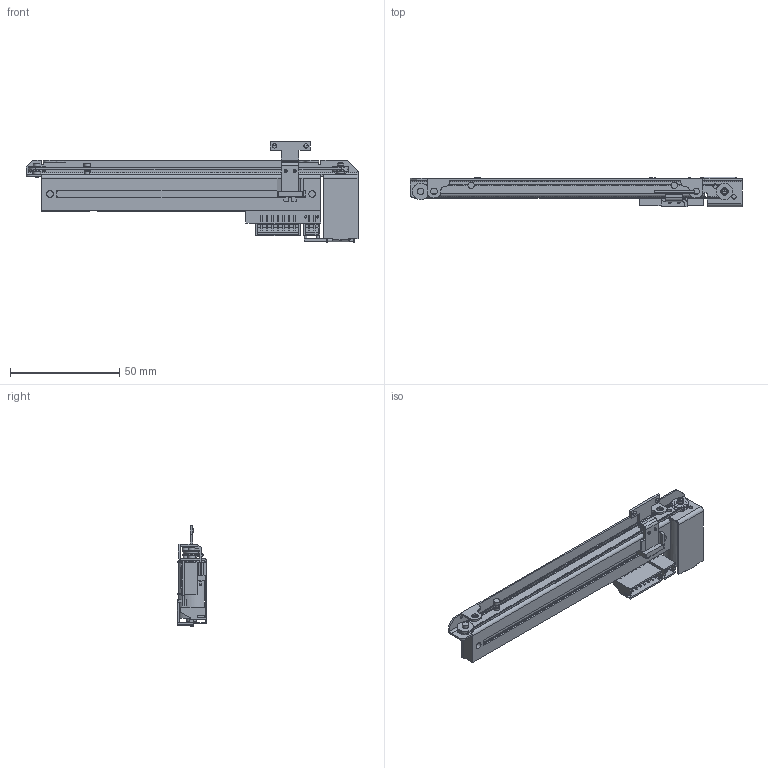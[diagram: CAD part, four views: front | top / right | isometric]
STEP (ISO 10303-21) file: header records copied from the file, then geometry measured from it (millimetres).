
FILE_DESCRIPTION(('HOOPS Exchange Step'),'2;1');
FILE_NAME('C:\Users\30abd\AppData\Local\Packages\Shapr3D.Shapr3D_j403pzjkqtqbj\TempState\export\temp_export','2023-04-19T23:30:09+08:00',('30abd'),('Shapr3D Limited'),'HOOPS Exchange 2022.2','Shapr3D','Authorized');
FILE_SCHEMA( ('AUTOMOTIVE_DESIGN { 1 0 10303 214 1 1 1 1 }') );
Length unit declared in the file: millimetre
Products named in the file (2): psm01-081a-103b2.stp; root
Assembly tree (1 placements, depth 2):
  root
    psm01-081a-103b2.stp
Bounding box: 152 x 13.58 x 46.19 mm (x, y, z)
Volume: 21766.7 mm3; surface area: 19364.6 mm2
Topology: 1 solids, 1 shells, 2800 faces, 8332 edges, 5516 vertices
Faces by surface type: plane 1647, cylinder 1111, torus 19, cone 19, extrusion 4
Full cylindrical faces by diameter (mm): 0.5 x1, 0.6 x3, 1 x2, 1.2 x7, 1.3 x2, 1.4 x3, 1.45 x3, 1.5 x2, 2 x2, 2.15 x4, 2.8 x1, 2.85 x4, 3 x7, 3.5 x2, 4.7 x3, 5.7 x1, 7.6 x4
Entity records: 94787 total; most frequent: CARTESIAN_POINT 17068, ORIENTED_EDGE 16658, DIRECTION 16371, EDGE_CURVE 8329, VECTOR 5747, LINE 5743, VERTEX_POINT 5516, AXIS2_PLACEMENT_3D 5312
